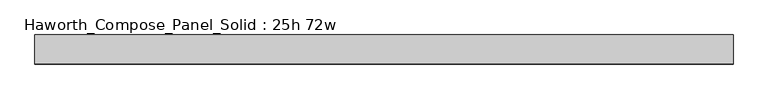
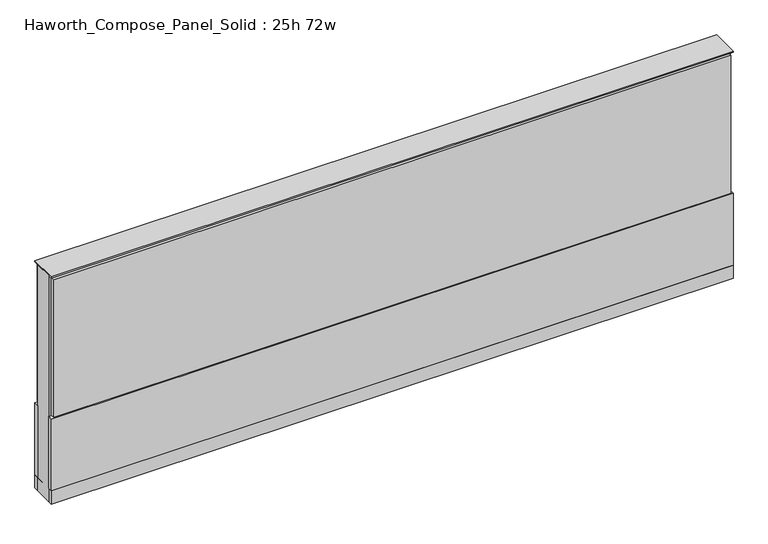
"""IFC4 building model written with IfcOpenShell, lengths in millimetres: furniture geometry, Haworth_Compose_Panel_Solid : 25h 72w."""

from ifc_helpers import new_model, si_unit, point, frame, frame_2d, origin, origin_with_axes, place, context, project, spatial, polyline, circle_curve, trimmed, segment, composite_curve, outline, extrude, source, transform, mapped, element, save


def haworth_compose_panel_solid_25h_72w_a4209a23(model_context):
    return source(origin(), model_context, "Body", "SweptSolid", [
        extrude(outline(composite_curve([segment(trimmed(circle_curve(frame_2d((-835.7597098, 0.0)), 12.7), [point((-848.4597098, 0.0))], [point((-823.0597098, 0.0))], False, "CARTESIAN"), True, "CONTINUOUS"), segment(trimmed(circle_curve(frame_2d((-835.7597098, 0.0)), 12.7), [point((-823.0597098, 0.0))], [point((-848.4597098, 0.0))], False, "CARTESIAN"), True, "CONTINUOUS")], self_intersect=False)), origin_with_axes(), (0.0, 0.0, 1.0), 12.7),
        extrude(outline(composite_curve([segment(trimmed(circle_curve(frame_2d((840.6402902, 0.0)), 12.7), [point((827.9402902, 0.0))], [point((853.3402902, 0.0))], False, "CARTESIAN"), True, "CONTINUOUS"), segment(trimmed(circle_curve(frame_2d((840.6402902, 0.0)), 12.7), [point((853.3402902, 0.0))], [point((827.9402902, 0.0))], False, "CARTESIAN"), True, "CONTINUOUS")], self_intersect=False)), origin_with_axes(), (0.0, 0.0, 1.0), 12.7),
        extrude(outline(polyline([(910.4902902, 38.1), (910.4902902, 25.4), (-905.6097098, 25.4), (-905.6097098, 38.1), (910.4902902, 38.1)])), frame((0.0, 0.0, 257.175), z_axis=(0.0, 0.0, 1.0), x_axis=(1.0, 0.0, 0.0)), (0.0, 0.0, 1.0), 390.525),
        extrude(outline(polyline([(916.8402902, 38.1), (916.8402902, 25.4), (-911.9597098, 25.4), (-911.9597098, 38.1), (916.8402902, 38.1)])), frame((0.0, 0.0, 50.8), z_axis=(0.0, 0.0, 1.0), x_axis=(1.0, 0.0, 0.0)), (0.0, 0.0, 1.0), 203.2),
        extrude(outline(polyline([(916.8402902, -38.1), (-911.9597098, -38.1), (-911.9597098, -25.4), (916.8402902, -25.4), (916.8402902, -38.1)])), frame((0.0, 0.0, 50.8), z_axis=(0.0, 0.0, 1.0), x_axis=(1.0, 0.0, 0.0)), (0.0, 0.0, 1.0), 203.2),
        extrude(outline(polyline([(910.4902902, -38.1), (-905.6097098, -38.1), (-905.6097098, -25.4), (910.4902902, -25.4), (910.4902902, -38.1)])), frame((0.0, 0.0, 257.175), z_axis=(0.0, 0.0, 1.0), x_axis=(1.0, 0.0, 0.0)), (0.0, 0.0, 1.0), 390.525),
        extrude(outline(polyline([(916.8402902, 25.4), (916.8402902, -25.4), (-911.9597098, -25.4), (-911.9597098, 25.4), (916.8402902, 25.4)])), frame((0.0, 0.0, 12.7), z_axis=(0.0, 0.0, 1.0), x_axis=(1.0, 0.0, 0.0)), (0.0, 0.0, 1.0), 641.35),
        extrude(outline(polyline([(-911.9597098, -38.1), (-911.9597098, 38.1), (916.8402902, 38.1), (916.8402902, -38.1), (-911.9597098, -38.1)])), frame((0.0, 0.0, 12.7), z_axis=(0.0, 0.0, 1.0), x_axis=(1.0, 0.0, 0.0)), (0.0, 0.0, 1.0), 38.1),
        extrude(outline(polyline([(-911.9597098, -38.1), (-911.9597098, 38.1), (916.8402902, 38.1), (916.8402902, -38.1), (-911.9597098, -38.1)])), frame((0.0, 0.0, 654.05), z_axis=(0.0, 0.0, 1.0), x_axis=(1.0, 0.0, 0.0)), (0.0, 0.0, 1.0), 3.175),
    ])


if __name__ == "__main__":
    model = new_model("IFC4")
    model_context = context("Model", 3, world=origin())
    ifc_project = project(units=[si_unit("LENGTHUNIT", "METRE", prefix="MILLI")], contexts=[model_context])
    site = spatial("IfcSite", under=ifc_project)
    building = spatial("IfcBuilding", under=site)
    placement = place(None, origin())
    haworth_compose_panel_solid_25h_72w_shape = haworth_compose_panel_solid_25h_72w_a4209a23(model_context)
    element("IfcFurniture", 1, ObjectType="Haworth_Compose_Panel_Solid : 25h 72w", at=placement, inside=building, context=model_context, shape_type="MappedRepresentation", body=[
        mapped(haworth_compose_panel_solid_25h_72w_shape, transform((0.0, 0.0, 0.0), x_axis=(1.0, 0.0, 0.0), y_axis=(0.0, 1.0, 0.0), z_axis=(0.0, 0.0, 1.0))),
    ])
    save(model, "model.ifc")
